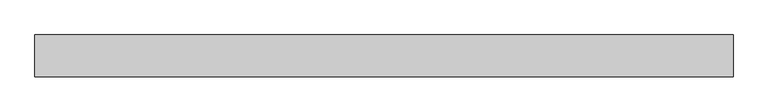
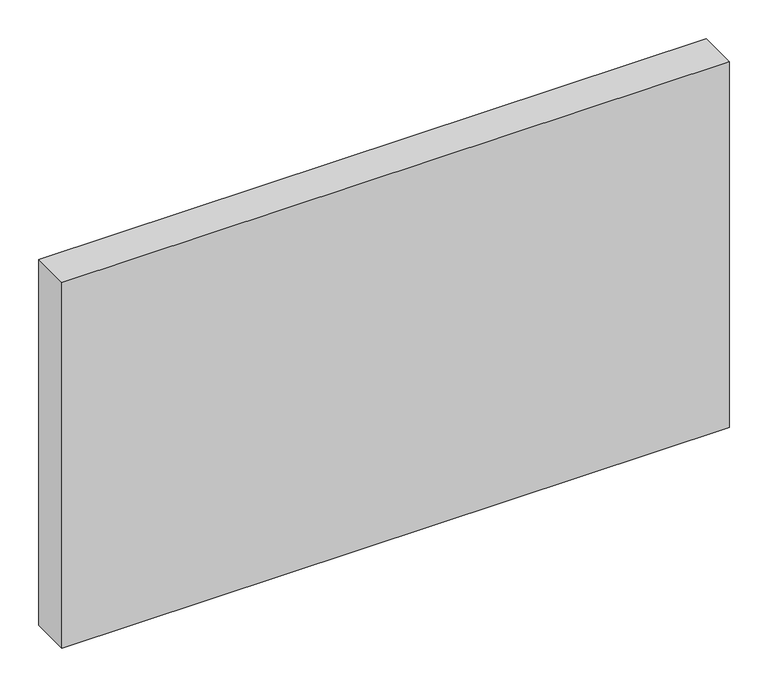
"""IFC4 building model written with IfcOpenShell, lengths in millimetres: plate geometry, Системная панель : Алюкобонд серый."""

from ifc_helpers import new_model, si_unit, origin, origin_with_axes, place, context, project, spatial, polyline, outline, extrude, source, transform, mapped, element, save


def plate_6c707fa3(model_context):
    return source(origin(), model_context, "Body", "SweptSolid", [
        extrude(outline(polyline([(500.3096666, -49.5), (-500.3096666, -49.5), (-500.3096666, 10.5), (500.3096666, 10.5), (500.3096666, -49.5)])), origin_with_axes(), (0.0, 0.0, 1.0), 580.0),
    ])


if __name__ == "__main__":
    model = new_model("IFC4")
    model_context = context("Model", 3, world=origin())
    ifc_project = project(units=[si_unit("LENGTHUNIT", "METRE", prefix="MILLI")], contexts=[model_context])
    site = spatial("IfcSite", under=ifc_project)
    building = spatial("IfcBuilding", under=site)
    placement = place(None, origin())
    plate_shape = plate_6c707fa3(model_context)
    element("IfcPlate", 1, ObjectType="Системная панель : Алюкобонд серый", at=placement, inside=building, context=model_context, shape_type="MappedRepresentation", body=[
        mapped(plate_shape, transform((0.0, 0.0, 0.0), x_axis=(1.0, 0.0, 0.0), y_axis=(0.0, 1.0, 0.0), z_axis=(0.0, 0.0, 1.0))),
    ])
    save(model, "model.ifc")
